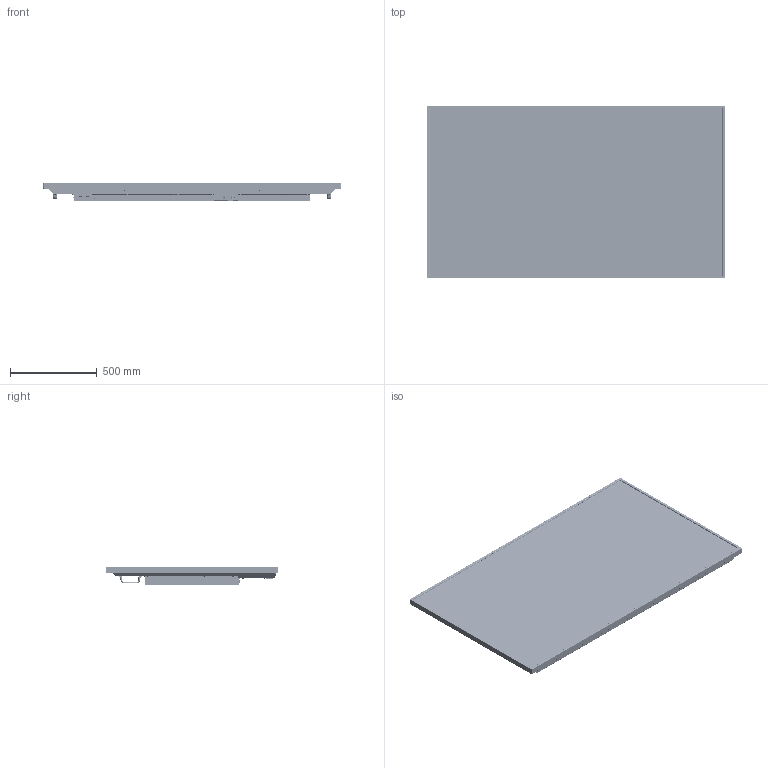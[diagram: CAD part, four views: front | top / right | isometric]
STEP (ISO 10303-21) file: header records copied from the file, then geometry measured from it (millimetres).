
FILE_DESCRIPTION (( 'STEP AP203' ), '1' );
FILE_NAME ('Attu URP75-ERO-T Panel 3D.STEP', '2022-01-30T23:29:28', ( '' ), ( '' ), 'SwSTEP 2.0', 'SolidWorks 2021', '' );
FILE_SCHEMA (( 'CONFIG_CONTROL_DESIGN' ));
Products named in the file (44): 572-5554; 572-5560; 572-4464; 10SS6-B2AHR-QPB; 572-5559; 572-5527; 591-0368_Printed Glass; B18.6.7M - M3 x 0.5 x 6 Type I Cross Recessed FHMS --6N BLK_PreviewCfg; Attu URP75-ERO-T Panel 3D; Shell Version of 944-2980; 572-5492; PEM S-M4-1 ZI--N; B18.6.7M - M3 x 0.5 x 6 Type I Cross Recessed PHMS --6N BLK_B18.6.7M - M3 x 0.5 x 6 Type I Cross Recessed PHMS --6N; 572-5530; 572-5562; TPV 75 Handle Screw; PLP2-125 (Lens); PEM S-M3-1 ZI--N_PEM S-M3-1 ZI--N; TPV 75 Handle; 00_LCM_75_PDT0_Icm_20210308-simplified3; 540-0192; 537-0219_93655A256; Gap Filler strip vert75; CTB-B-B-03; MANIFOLD_SOLID_BREP_719946; 927-0068; PEM TPS-3mm-16_PEM TPS-3mm-16; B18.6.7M - M4 x 0.7 x 6 Type I Cross Recessed PHMS --6N BLK_B18.6.7M - M4 x 0.7 x 6 Type I Cross Recessed PHMS BLK --6N; PEM FH-M6-15 ZI--N_PEM FH-M6-15 ZI--N; 572-5558; 572-5561; MANIFOLD_SOLID_BREP_720279; 572-5493; 572-5490; e_0100.1482b003 6600-4315 Schurter; Gap Filler strip horz75; 572-5489
Assembly tree (166 placements, depth 3):
  Attu URP75-ERO-T Panel 3D
    00_LCM_75_PDT0_Icm_20210308-simplified3
    TPV 75 Handle  x2
    TPV 75 Handle Screw  x4
      MANIFOLD_SOLID_BREP_719946
      MANIFOLD_SOLID_BREP_720279
    572-5554
      572-5554
      PEM S-M3-1 ZI--N_PEM S-M3-1 ZI--N
      PEM FH-M6-15 ZI--N_PEM FH-M6-15 ZI--N
    537-0219_93655A256  x4
    10SS6-B2AHR-QPB
    e_0100.1482b003 6600-4315 Schurter
    CTB-B-B-03
    540-0192
    572-4464
      572-4464
      PLP2-125 (Lens)
    B18.6.7M - M3 x 0.5 x 6 Type I Cross Recessed FHMS --6N BLK_PreviewCfg  x57
    B18.6.7M - M4 x 0.7 x 6 Type I Cross Recessed PHMS --6N BLK_B18.6.7M - M4 x 0.7 x 6 Type I Cross Recessed PHMS BLK --6N  x26
    B18.6.7M - M3 x 0.5 x 6 Type I Cross Recessed PHMS --6N BLK_B18.6.7M - M3 x 0.5 x 6 Type I Cross Recessed PHMS --6N  x2
    572-5527
    572-5558
      572-5558
      PEM S-M4-1 ZI--N  x10
      PEM S-M3-1 ZI--N_PEM S-M3-1 ZI--N  x5
    927-0068
      591-0368_Printed Glass
    572-5492  x2
    572-5493  x2
    572-5559
      572-5559
      PEM TPS-3mm-16_PEM TPS-3mm-16  x4
    572-5560
      572-5560
      PEM TPS-3mm-16_PEM TPS-3mm-16  x2
    572-5561
      572-5561
      PEM TPS-3mm-16_PEM TPS-3mm-16  x2
    572-5562
      572-5562
      PEM TPS-3mm-16_PEM TPS-3mm-16  x4
    572-5489  x2
    572-5490  x2
    572-5530  x4
    Shell Version of 944-2980
    Gap Filler strip horz75  x2
    Gap Filler strip vert75  x2
Bounding box: 1717.06 x 995.34 x 102.32 mm (x, y, z)
Volume: 6424030.8 mm3; surface area: 13651945.5 mm2
Topology: 158 solids, 353 shells, 20908 faces, 60337 edges, 40527 vertices
Faces by surface type: plane 9879, cylinder 8125, bspline 1532, cone 1116, torus 194, sphere 62
Entity records: 660945 total; most frequent: CARTESIAN_POINT 222138, ORIENTED_EDGE 92364, DIRECTION 80523, EDGE_CURVE 49202, VERTEX_POINT 33585, AXIS2_PLACEMENT_3D 26844, LINE 26835, VECTOR 26835
